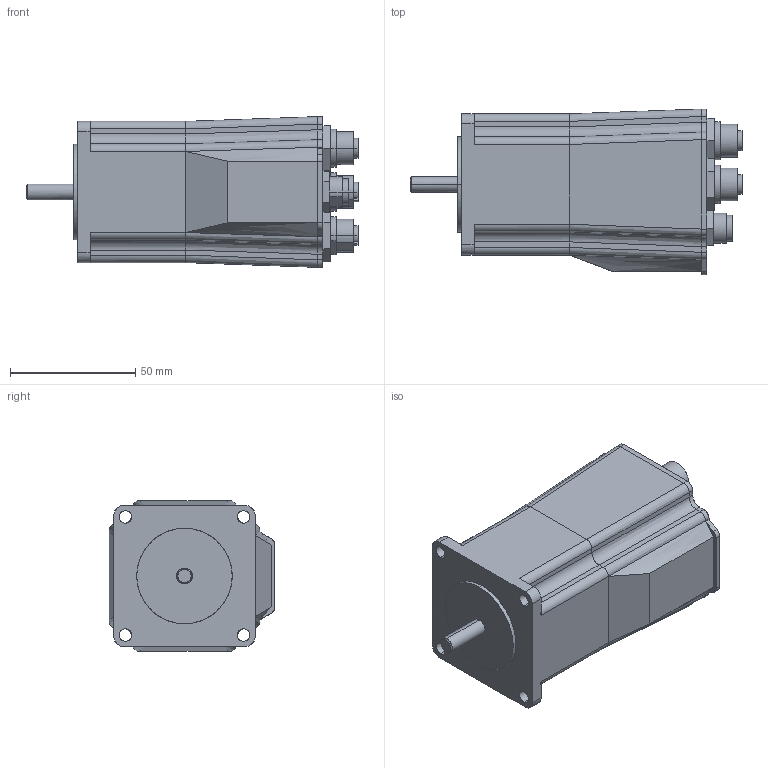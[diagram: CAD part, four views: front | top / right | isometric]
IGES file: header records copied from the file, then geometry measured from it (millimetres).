
Start section: Comment
Global section: file name: LT0092-10GB.igs; native system:  By UGS Corp.; preprocessor: XPlus GENERIC/IGES 3.0; author: Jørgen; organization: www.stream-design.com; date: 20071009.103255; units: millimetre
Bounding box: 132.6 x 66.2 x 60.2 mm (x, y, z)
Surface area: 32390.3 mm2 (no closed solid volume)
Topology: 0 solids, 0 shells, 259 faces, 1250 edges, 1250 vertices
Faces by surface type: bspline 259
